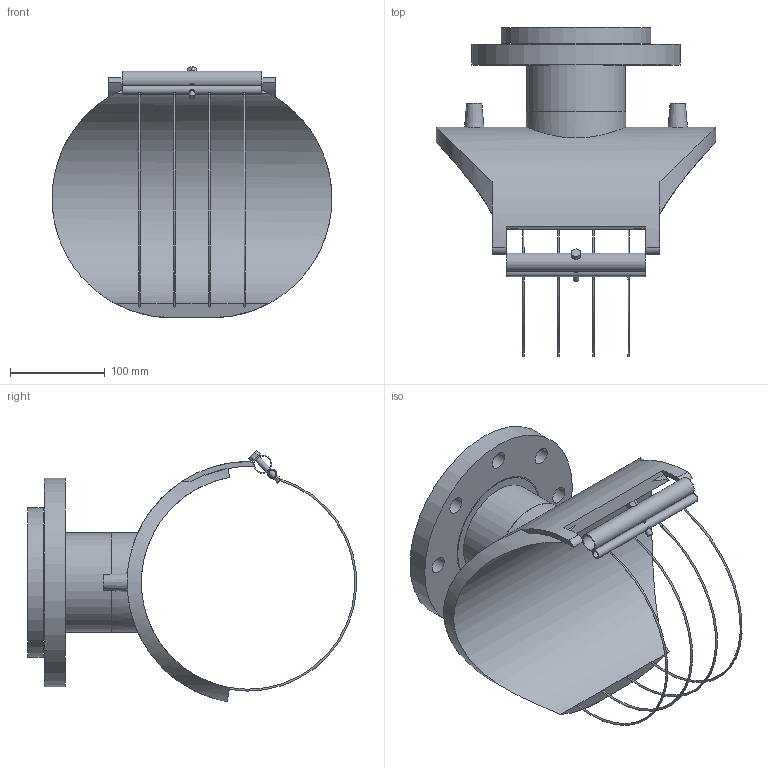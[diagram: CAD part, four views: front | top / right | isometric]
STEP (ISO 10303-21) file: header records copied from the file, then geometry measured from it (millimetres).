
FILE_DESCRIPTION(/* description */ ('Plasson Flanged Branch Saddle 225x100'),/* implementation_level */ '2;1');
FILE_NAME(/* name */ 'C:\Dropbox\99-16-3568-Processing\ElectroFusion Fittings\4959X4\stp\4959X4225100T.stp',/* time_stamp */ '2022-04-28T11:37:43+03:00',/* author */ ('KIM'),/* organization */ (''),/* preprocessor_version */ 'ST-DEVELOPER v17.2',/* originating_system */ 'Autodesk Inventor 2019',/* authorisation */ '');
FILE_SCHEMA (('AUTOMOTIVE_DESIGN { 1 0 10303 214 3 1 1 }'));
Length unit declared in the file: millimetre
Products named in the file (1): 4959X4225100T
Bounding box: 295 x 346.74 x 264.82 mm (x, y, z)
Volume: 2283791.5 mm3; surface area: 394232.9 mm2
Topology: 2 solids, 2 shells, 79 faces, 243 edges, 168 vertices
Faces by surface type: cylinder 40, plane 29, torus 8, cone 2
Full cylindrical faces by diameter (mm): 6 x3, 7.6 x1, 8 x1, 16 x1, 17.2 x1, 18 x8, 87 x1, 104.4 x1, 105.4 x1, 121.8 x1, 123.8 x1, 158 x1, 220 x1
Entity records: 3738 total; most frequent: CARTESIAN_POINT 1392, ORIENTED_EDGE 490, DIRECTION 481, EDGE_CURVE 245, AXIS2_PLACEMENT_3D 204, VERTEX_POINT 168, CIRCLE 120, EDGE_LOOP 117
